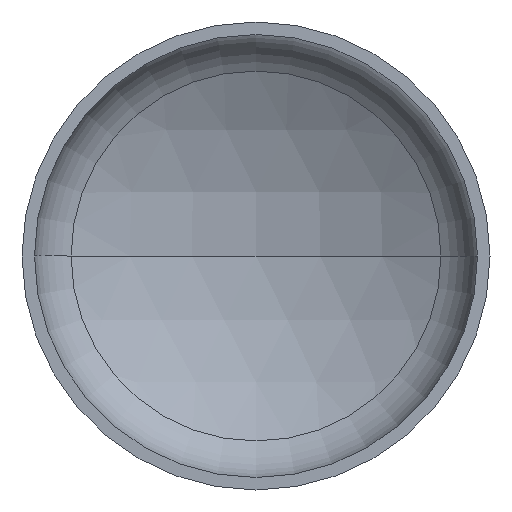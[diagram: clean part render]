
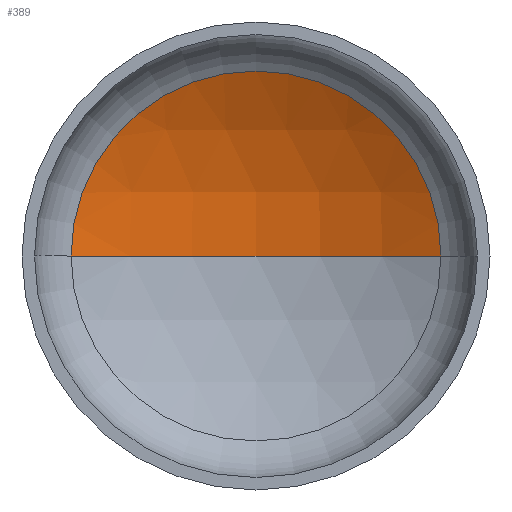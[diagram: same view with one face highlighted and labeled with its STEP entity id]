
A CAD part, front view. The second image highlights one B-rep face of the part: STEP entity #389.
In plain terms, the highlighted spherical face has radius 3600 mm.
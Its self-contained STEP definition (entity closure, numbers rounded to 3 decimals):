
#14 = EDGE_LOOP ( 'NONE', ( #58, #48, #16 ) ) ;
#16 = ORIENTED_EDGE ( 'NONE', *, *, #276, .T. ) ;
#48 = ORIENTED_EDGE ( 'NONE', *, *, #244, .T. ) ;
#58 = ORIENTED_EDGE ( 'NONE', *, *, #223, .F. ) ;
#67 = VERTEX_POINT ( 'NONE', #208 ) ;
#73 = CARTESIAN_POINT ( 'NONE',  ( 0., -2450.827, 0. ) ) ;
#78 = VERTEX_POINT ( 'NONE', #330 ) ;
#84 = AXIS2_PLACEMENT_3D ( 'NONE', #73, #148, #150 ) ;
#99 = DIRECTION ( 'NONE',  ( -1., 0., 0. ) ) ;
#134 = CARTESIAN_POINT ( 'NONE',  ( 0., 679.286, 0. ) ) ;
#135 = DIRECTION ( 'NONE',  ( 1., 0., 0. ) ) ;
#137 = DIRECTION ( 'NONE',  ( 0., -1., 0. ) ) ;
#145 = DIRECTION ( 'NONE',  ( 1., 0., 0. ) ) ;
#147 = DIRECTION ( 'NONE',  ( 0., 0., 1. ) ) ;
#148 = DIRECTION ( 'NONE',  ( 0., 0., -1. ) ) ;
#149 = AXIS2_PLACEMENT_3D ( 'NONE', #134, #137, #135 ) ;
#150 = DIRECTION ( 'NONE',  ( -1., 0., 0. ) ) ;
#175 = SPHERICAL_SURFACE ( 'NONE', #382, 3600. ) ;
#195 = VERTEX_POINT ( 'NONE', #283 ) ;
#208 = CARTESIAN_POINT ( 'NONE',  ( 1778.313, 679.286, 0. ) ) ;
#217 = CIRCLE ( 'NONE', #404, 3600. ) ;
#218 = CARTESIAN_POINT ( 'NONE',  ( 0., -2450.827, 0. ) ) ;
#223 = EDGE_CURVE ( 'NONE', #195, #78, #217, .T. ) ;
#244 = EDGE_CURVE ( 'NONE', #195, #67, #346, .T. ) ;
#276 = EDGE_CURVE ( 'NONE', #67, #78, #402, .T. ) ;
#283 = CARTESIAN_POINT ( 'NONE',  ( 0., 1149.173, 0. ) ) ;
#291 = CARTESIAN_POINT ( 'NONE',  ( 0., -2450.827, 0. ) ) ;
#330 = CARTESIAN_POINT ( 'NONE',  ( -1778.313, 679.286, 0. ) ) ;
#346 = CIRCLE ( 'NONE', #84, 3600. ) ;
#374 = DIRECTION ( 'NONE',  ( 0., 0., -1. ) ) ;
#382 = AXIS2_PLACEMENT_3D ( 'NONE', #291, #374, #99 ) ;
#386 = FACE_OUTER_BOUND ( 'NONE', #14, .T. ) ;
#389 = ADVANCED_FACE ( 'NONE', ( #386 ), #175, .F. ) ;
#402 = CIRCLE ( 'NONE', #149, 1778.313 ) ;
#404 = AXIS2_PLACEMENT_3D ( 'NONE', #218, #147, #145 ) ;
